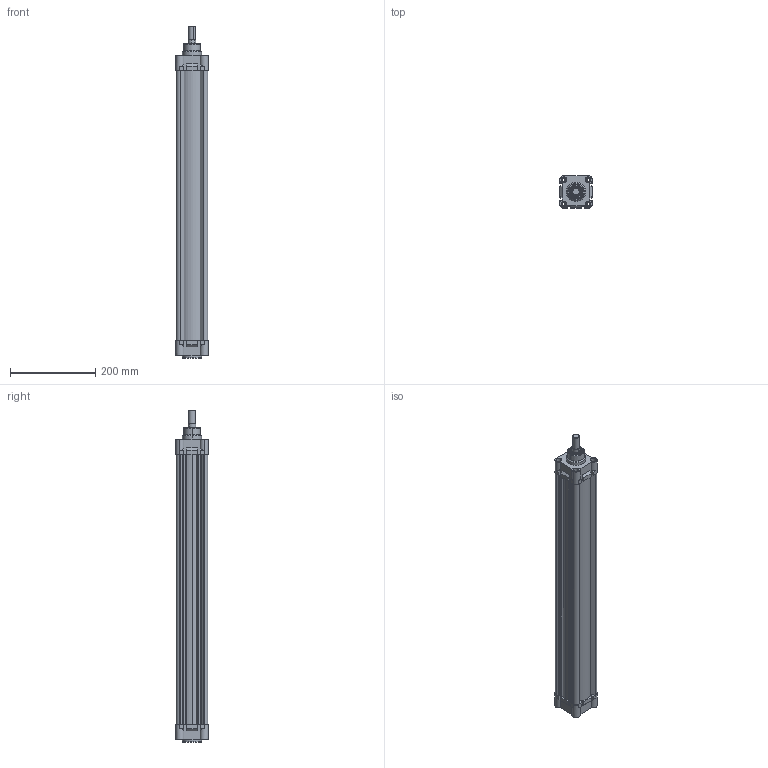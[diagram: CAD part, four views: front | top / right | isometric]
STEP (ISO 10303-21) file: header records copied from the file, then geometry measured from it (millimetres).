
FILE_DESCRIPTION (( 'STEP AP214' ), '1' );
FILE_NAME ('RIC_63_600_WEB.STEP', '2020-07-18T16:37:45', ( '' ), ( '' ), 'SwSTEP 2.0', 'SolidWorks 2018', '' );
FILE_SCHEMA (( 'AUTOMOTIVE_DESIGN' ));
Length unit declared in the file: millimetre
Products named in the file (7): 20_K_MIL_WEB; ric63bogazkecesi; ric63yastikkecesi; 63_BORU_WEB; ric63arkakapak; ric63onkapak; RIC_63_600_WEB
Assembly tree (7 placements, depth 2):
  RIC_63_600_WEB
    63_BORU_WEB
    ric63onkapak
    ric63arkakapak
    ric63bogazkecesi
    ric63yastikkecesi  x2
    20_K_MIL_WEB
Bounding box: 76 x 76 x 778 mm (x, y, z)
Volume: 1372093.8 mm3; surface area: 503435.1 mm2
Topology: 7 solids, 7 shells, 709 faces, 1751 edges, 1102 vertices
Faces by surface type: plane 280, cylinder 220, torus 134, cone 56, bspline 19
Entity records: 21075 total; most frequent: CARTESIAN_POINT 4906, DIRECTION 3090, ORIENTED_EDGE 2910, EDGE_CURVE 1455, AXIS2_PLACEMENT_3D 1135, VERTEX_POINT 925, VECTOR 820, LINE 820
